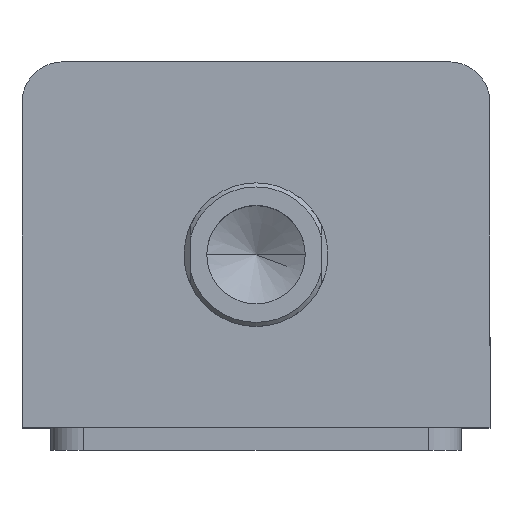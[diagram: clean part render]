
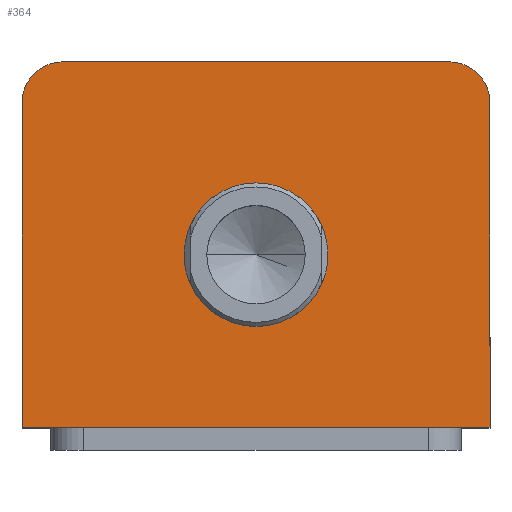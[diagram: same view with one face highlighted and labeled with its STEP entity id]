
A CAD part, top view. The second image highlights one B-rep face of the part: STEP entity #364.
In plain terms, the highlighted planar face has unit normal (0, 0, 1).
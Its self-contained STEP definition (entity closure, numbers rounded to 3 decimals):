
#52 = EDGE_LOOP ( 'NONE', ( #1907, #1908 ) ) ;
#60 = EDGE_LOOP ( 'NONE', ( #1909, #1910, #1911, #1912, #1913, #1914 ) ) ;
#184 = CARTESIAN_POINT ( 'NONE',  ( 47., 44.5, 167. ) ) ;
#187 = CARTESIAN_POINT ( 'NONE',  ( -47., 44.5, 167. ) ) ;
#195 = CARTESIAN_POINT ( 'NONE',  ( -57., 34.5, 167. ) ) ;
#303 = CARTESIAN_POINT ( 'NONE',  ( -17.5, -2.5, 167. ) ) ;
#304 = CARTESIAN_POINT ( 'NONE',  ( -57., -44.5, 167. ) ) ;
#305 = CARTESIAN_POINT ( 'NONE',  ( 17.5, -2.5, 167. ) ) ;
#307 = CARTESIAN_POINT ( 'NONE',  ( 57., -44.5, 167. ) ) ;
#323 = CARTESIAN_POINT ( 'NONE',  ( 57., 34.5, 167. ) ) ;
#364 = ADVANCED_FACE ( 'NONE', ( #1781, #1784 ), #599, .T. ) ;
#494 = CARTESIAN_POINT ( 'NONE',  ( 0., -2.5, 167. ) ) ;
#495 = DIRECTION ( 'NONE',  ( 0., 0., 1. ) ) ;
#496 = DIRECTION ( 'NONE',  ( 1., 0., 0. ) ) ;
#592 = CARTESIAN_POINT ( 'NONE',  ( 0., 0., 167. ) ) ;
#599 = PLANE ( 'NONE',  #3084 ) ;
#601 = DIRECTION ( 'NONE',  ( 0., 0., 1. ) ) ;
#602 = DIRECTION ( 'NONE',  ( 1., 0., 0. ) ) ;
#1112 = DIRECTION ( 'NONE',  ( 0., 1., 0. ) ) ;
#1117 = CARTESIAN_POINT ( 'NONE',  ( 57., 44.5, 167. ) ) ;
#1175 = CARTESIAN_POINT ( 'NONE',  ( -57., -44.5, 167. ) ) ;
#1176 = DIRECTION ( 'NONE',  ( 1., 0., 0. ) ) ;
#1206 = CARTESIAN_POINT ( 'NONE',  ( 0., -2.5, 167. ) ) ;
#1207 = DIRECTION ( 'NONE',  ( 0., 0., 1. ) ) ;
#1208 = DIRECTION ( 'NONE',  ( 1., 0., 0. ) ) ;
#1209 = CARTESIAN_POINT ( 'NONE',  ( -57., 44.5, 167. ) ) ;
#1215 = DIRECTION ( 'NONE',  ( 0., -1., 0. ) ) ;
#1216 = CARTESIAN_POINT ( 'NONE',  ( -47., 34.5, 167. ) ) ;
#1217 = DIRECTION ( 'NONE',  ( 0., 0., 1. ) ) ;
#1218 = DIRECTION ( 'NONE',  ( 1., 0., 0. ) ) ;
#1254 = CARTESIAN_POINT ( 'NONE',  ( 47., 34.5, 167. ) ) ;
#1255 = DIRECTION ( 'NONE',  ( 0., 0., 1. ) ) ;
#1256 = DIRECTION ( 'NONE',  ( 1., 0., 0. ) ) ;
#1257 = CARTESIAN_POINT ( 'NONE',  ( -57., 44.5, 167. ) ) ;
#1263 = DIRECTION ( 'NONE',  ( -1., 0., 0. ) ) ;
#1781 = FACE_BOUND ( 'NONE', #52, .T. ) ;
#1784 = FACE_OUTER_BOUND ( 'NONE', #60, .T. ) ;
#1907 = ORIENTED_EDGE ( 'NONE', *, *, #3195, .F. ) ;
#1908 = ORIENTED_EDGE ( 'NONE', *, *, #3147, .F. ) ;
#1909 = ORIENTED_EDGE ( 'NONE', *, *, #3218, .T. ) ;
#1910 = ORIENTED_EDGE ( 'NONE', *, *, #3200, .T. ) ;
#1911 = ORIENTED_EDGE ( 'NONE', *, *, #3199, .T. ) ;
#1912 = ORIENTED_EDGE ( 'NONE', *, *, #3272, .T. ) ;
#1913 = ORIENTED_EDGE ( 'NONE', *, *, #3250, .T. ) ;
#1914 = ORIENTED_EDGE ( 'NONE', *, *, #3213, .T. ) ;
#2181 = VERTEX_POINT ( 'NONE', #303 ) ;
#2182 = VERTEX_POINT ( 'NONE', #304 ) ;
#2183 = VERTEX_POINT ( 'NONE', #305 ) ;
#2185 = VERTEX_POINT ( 'NONE', #307 ) ;
#2201 = VERTEX_POINT ( 'NONE', #323 ) ;
#2213 = VERTEX_POINT ( 'NONE', #184 ) ;
#2216 = VERTEX_POINT ( 'NONE', #187 ) ;
#2224 = VERTEX_POINT ( 'NONE', #195 ) ;
#2522 = CIRCLE ( 'NONE', #2884, 17.5 ) ;
#2596 = CIRCLE ( 'NONE', #2800, 17.5 ) ;
#2603 = LINE ( 'NONE', #1209, #2607 ) ;
#2604 = CIRCLE ( 'NONE', #2828, 10. ) ;
#2607 = VECTOR ( 'NONE', #1215, 1000. ) ;
#2625 = CIRCLE ( 'NONE', #2838, 10. ) ;
#2800 = AXIS2_PLACEMENT_3D ( 'NONE', #1206, #1207, #1208 ) ;
#2828 = AXIS2_PLACEMENT_3D ( 'NONE', #1216, #1217, #1218 ) ;
#2838 = AXIS2_PLACEMENT_3D ( 'NONE', #1254, #1255, #1256 ) ;
#2884 = AXIS2_PLACEMENT_3D ( 'NONE', #494, #495, #496 ) ;
#3084 = AXIS2_PLACEMENT_3D ( 'NONE', #592, #601, #602 ) ;
#3147 = EDGE_CURVE ( 'NONE', #2181, #2183, #2522, .T. ) ;
#3195 = EDGE_CURVE ( 'NONE', #2183, #2181, #2596, .T. ) ;
#3199 = EDGE_CURVE ( 'NONE', #2224, #2182, #2603, .T. ) ;
#3200 = EDGE_CURVE ( 'NONE', #2216, #2224, #2604, .T. ) ;
#3213 = EDGE_CURVE ( 'NONE', #2201, #2213, #2625, .T. ) ;
#3218 = EDGE_CURVE ( 'NONE', #2213, #2216, #3309, .T. ) ;
#3250 = EDGE_CURVE ( 'NONE', #2185, #2201, #3354, .T. ) ;
#3272 = EDGE_CURVE ( 'NONE', #2182, #2185, #3392, .T. ) ;
#3309 = LINE ( 'NONE', #1257, #3310 ) ;
#3310 = VECTOR ( 'NONE', #1263, 1000. ) ;
#3354 = LINE ( 'NONE', #1117, #3356 ) ;
#3356 = VECTOR ( 'NONE', #1112, 1000. ) ;
#3392 = LINE ( 'NONE', #1175, #3395 ) ;
#3395 = VECTOR ( 'NONE', #1176, 1000. ) ;
